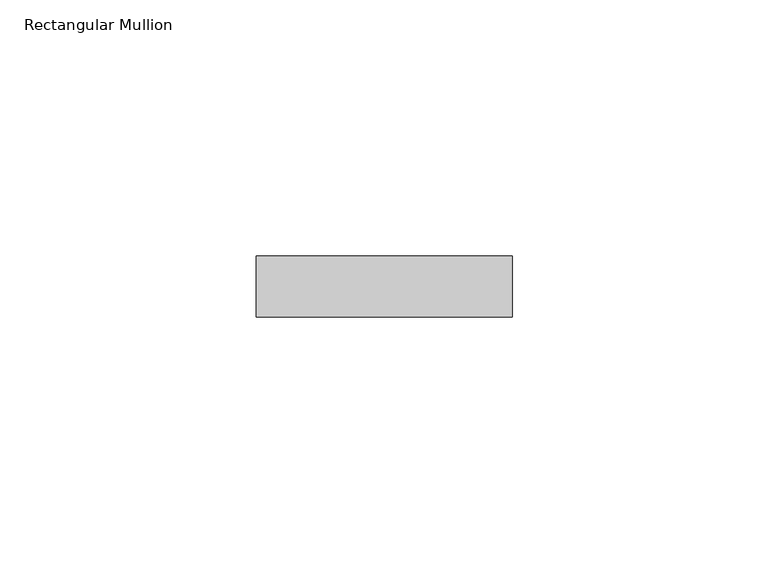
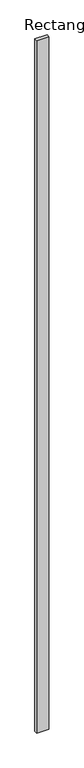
"""IFC4 building model written with IfcOpenShell, lengths in millimetres: member geometry, Rectangular Mullion : RSen_21_CWM_support profile - 50x12_gen_duco projects."""

from ifc_helpers import new_model, si_unit, frame, origin, place, context, project, spatial, polyline, outline, extrude, source, transform, mapped, element, save


def rectangular_mullion_7f158cb3(model_context):
    return source(origin(), model_context, "Body", "SweptSolid", [
        extrude(outline(polyline([(25.0, 1.0), (25.0, -11.0), (-25.0, -11.0), (-25.0, 1.0), (25.0, 1.0)])), frame((0.0, 0.0, -3000.0), z_axis=(0.0, 0.0, 1.0), x_axis=(1.0, 0.0, 0.0)), (0.0, 0.0, 1.0), 3000.0),
    ])


if __name__ == "__main__":
    model = new_model("IFC4")
    model_context = context("Model", 3, world=origin())
    ifc_project = project(units=[si_unit("LENGTHUNIT", "METRE", prefix="MILLI")], contexts=[model_context])
    site = spatial("IfcSite", under=ifc_project)
    building = spatial("IfcBuilding", under=site)
    placement = place(None, origin())
    rectangular_mullion_shape = rectangular_mullion_7f158cb3(model_context)
    element("IfcMember", 1, ObjectType="Rectangular Mullion : RSen_21_CWM_support profile - 50x12_gen_duco projects", at=placement, inside=building, context=model_context, shape_type="MappedRepresentation", body=[
        mapped(rectangular_mullion_shape, transform((0.0, 0.0, 0.0), x_axis=(1.0, 0.0, 0.0), y_axis=(0.0, 1.0, 0.0), z_axis=(0.0, 0.0, 1.0))),
    ])
    save(model, "model.ifc")
